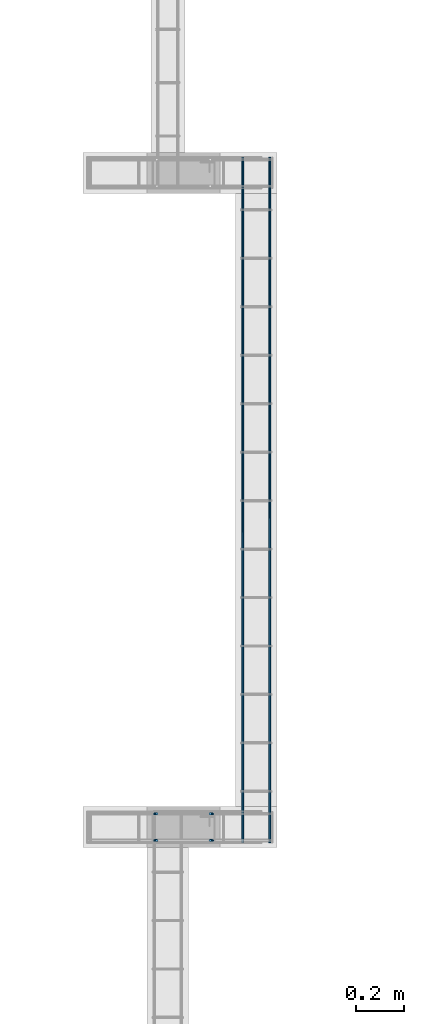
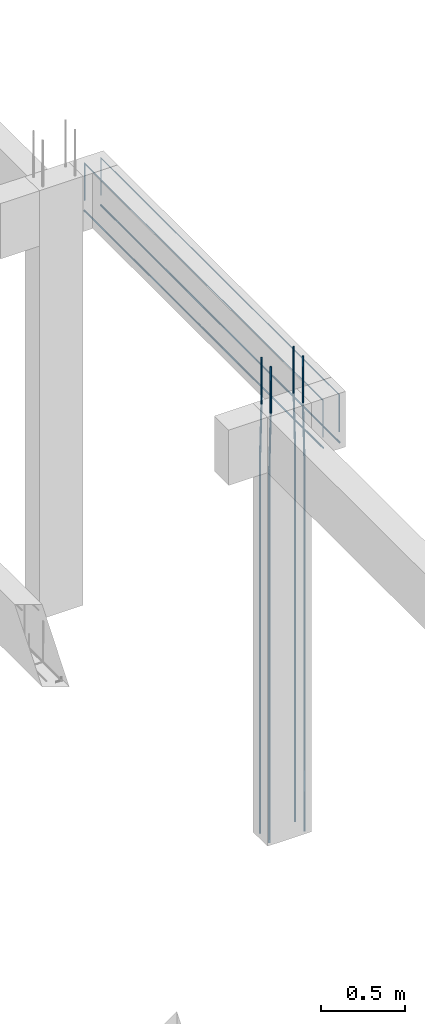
# One storey, part 109 of 236: 8 reinforcing bars.
"""IFC4 building model written with IfcOpenShell, lengths in centimetres."""

from ifc_helpers import new_model, entity, si_unit, derived_unit, frame, origin_with_axes, place, context, project, spatial, element, save


model = new_model("IFC4")

# Units and contexts
model_context = context("Model", 3, precision=1e-05, world=origin_with_axes(), identifier="Body")
ifc_project = project(units=[si_unit("LENGTHUNIT", "METRE", prefix="CENTI"), si_unit("VOLUMEUNIT", "CUBIC_METRE"), si_unit("AREAUNIT", "SQUARE_METRE"), si_unit("POWERUNIT", "WATT"), si_unit("LUMINOUSFLUXUNIT", "LUMEN"), si_unit("ELECTRICCURRENTUNIT", "AMPERE"), si_unit("PRESSUREUNIT", "PASCAL", prefix="KILO"), si_unit("MASSUNIT", "GRAM", prefix="KILO"), si_unit("PLANEANGLEUNIT", "RADIAN"), derived_unit("VOLUMETRICFLOWRATEUNIT", [(si_unit("LENGTHUNIT", "METRE"), 3), (si_unit("TIMEUNIT", "SECOND"), -1)])], contexts=[model_context])

# Site, building, storey
site_placement = place(None, frame((-4000.0, 0.0, 0.0), z_axis=(0.0, 0.0, 1.0), x_axis=(1.0, 0.0, 0.0)))
site = spatial("IfcSite", under=ifc_project, at=site_placement, Name="PADRÃO")
building_placement = place(site_placement, frame((0.0, 0.0, -14.0)))
building = spatial("IfcBuilding", under=site, at=building_placement, Name="CRECHE PRÉ-ESCOLA TIPO 2")
placement_1 = place(building_placement, origin_with_axes())
placement_2 = place(placement_1, frame((0.0, 0.0, 30.0), z_axis=(0.0, 0.0, 1.0), x_axis=(1.0, 0.0, 0.0)))
storey_placement = place(placement_2, frame((0.0, 0.0, 310.0), z_axis=(0.0, 0.0, 1.0), x_axis=(1.0, 0.0, 0.0)))
storey = spatial("IfcBuildingStorey", under=building, at=storey_placement, Name="TERREO", CompositionType="ELEMENT", Elevation=326.0)

# Reinforcing bars
reinforcing_bar_1_placement = place(storey_placement, frame((3361.0, 1024.58, 33.3573001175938), z_axis=(0.0, 0.0, 1.0), x_axis=(1.0, 0.0, 0.0)))
element("IfcReinforcingBar", 1, at=reinforcing_bar_1_placement, inside=storey, Name="P124 - Longitudinal", BarLength=0.0, CrossSectionArea=7.853981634e-05, NominalDiameter=1.0, PredefinedType="MAIN", context=model_context, shape_type="AdvancedSweptSolid", body=[
    entity("IfcSweptDiskSolid", entity("IfcCompositeCurve", [entity("IfcCompositeCurveSegment", "CONTINUOUS", True, entity("IfcPolyline", [entity("IfcCartesianPoint", [-0.5, 0.0, -343.357300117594]), entity("IfcCartesianPoint", [-0.5, 0.0, -73.3573001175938])])), entity("IfcCompositeCurveSegment", "CONTINUOUS", True, entity("IfcPolyline", [entity("IfcCartesianPoint", [-0.5, 0.0, -73.3573001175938]), entity("IfcCartesianPoint", [0.5, 0.0, -33.3573001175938])])), entity("IfcCompositeCurveSegment", "CONTINUOUS", True, entity("IfcPolyline", [entity("IfcCartesianPoint", [0.5, 0.0, -33.3573001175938]), entity("IfcCartesianPoint", [0.5, 0.0, 0.0])]))], False), 0.5),
])
for number, where, z_axis, x_axis, name in (
    (2, (3384.0, 1024.58, 33.3573001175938), (0.0, 0.0, 1.0), (1.0, 0.0, 0.0), "P124 - Longitudinal"),
    (3, (3384.0, 1035.58, 33.3573001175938), (0.0, 0.0, 1.0), (1.0, 0.0, 0.0), "P124 - Longitudinal"),
):
    element("IfcReinforcingBar", number, at=place(storey_placement, frame(where, z_axis=z_axis, x_axis=x_axis)), inside=storey, Name=name, BarLength=0.0, CrossSectionArea=7.853981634e-05, NominalDiameter=1.0, PredefinedType="MAIN", context=model_context, shape_type="AdvancedSweptSolid", body=[
        entity("IfcSweptDiskSolid", entity("IfcCompositeCurve", [entity("IfcCompositeCurveSegment", "CONTINUOUS", True, entity("IfcPolyline", [entity("IfcCartesianPoint", [0.5, 0.0, -343.357300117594]), entity("IfcCartesianPoint", [0.5, 0.0, -73.3573001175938])])), entity("IfcCompositeCurveSegment", "CONTINUOUS", True, entity("IfcPolyline", [entity("IfcCartesianPoint", [0.5, 0.0, -73.3573001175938]), entity("IfcCartesianPoint", [-0.5, 0.0, -33.3573001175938])])), entity("IfcCompositeCurveSegment", "CONTINUOUS", True, entity("IfcPolyline", [entity("IfcCartesianPoint", [-0.5, 0.0, -33.3573001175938]), entity("IfcCartesianPoint", [-0.5, 0.0, 0.0])]))], False), 0.5),
    ])
reinforcing_bar_2_placement = place(storey_placement, frame((3361.0, 1035.58, 33.3573001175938), z_axis=(0.0, 0.0, 1.0), x_axis=(1.0, 0.0, 0.0)))
element("IfcReinforcingBar", 4, at=reinforcing_bar_2_placement, inside=storey, Name="P124 - Longitudinal", BarLength=0.0, CrossSectionArea=7.853981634e-05, NominalDiameter=1.0, PredefinedType="MAIN", context=model_context, shape_type="AdvancedSweptSolid", body=[
    entity("IfcSweptDiskSolid", entity("IfcCompositeCurve", [entity("IfcCompositeCurveSegment", "CONTINUOUS", True, entity("IfcPolyline", [entity("IfcCartesianPoint", [-0.5, 0.0, -343.357300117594]), entity("IfcCartesianPoint", [-0.5, 0.0, -73.3573001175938])])), entity("IfcCompositeCurveSegment", "CONTINUOUS", True, entity("IfcPolyline", [entity("IfcCartesianPoint", [-0.5, 0.0, -73.3573001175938]), entity("IfcCartesianPoint", [0.5, 0.0, -33.3573001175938])])), entity("IfcCompositeCurveSegment", "CONTINUOUS", True, entity("IfcPolyline", [entity("IfcCartesianPoint", [0.5, 0.0, -33.3573001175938]), entity("IfcCartesianPoint", [0.5, 0.0, 0.0])]))], False), 0.5),
])
for number, where, z_axis, x_axis, name in (
    (5, (3408.08, 1165.09, -36.7), (0.0, 0.0, 1.0), (1.0, 0.0, 0.0), "V313 - Longitudinal inferior"),
    (6, (3396.88, 1165.09, -36.7), (0.0, 0.0, 1.0), (1.0, 0.0, 0.0), "V313 - Longitudinal inferior"),
):
    element("IfcReinforcingBar", number, at=place(storey_placement, frame(where, z_axis=z_axis, x_axis=x_axis)), inside=storey, Name=name, BarLength=0.0, CrossSectionArea=5.0265482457e-05, NominalDiameter=0.8, PredefinedType="MAIN", context=model_context, shape_type="AdvancedSweptSolid", body=[
        entity("IfcSweptDiskSolid", entity("IfcCompositeCurve", [entity("IfcCompositeCurveSegment", "CONTINUOUS", True, entity("IfcPolyline", [entity("IfcCartesianPoint", [0.0, -141.5, -0.4]), entity("IfcCartesianPoint", [0.0, 141.5, -0.4])]))], False), 0.4),
    ])
for number, where, z_axis, x_axis, name in (
    (7, (3396.88, 1165.09, -2.49624973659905), (0.0, 0.0, 1.0), (1.0, 0.0, 0.0), "V313 - Longitudinal superior"),
    (8, (3408.08, 1165.09, -2.49624973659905), (0.0, 0.0, 1.0), (1.0, 0.0, 0.0), "V313 - Longitudinal superior"),
):
    element("IfcReinforcingBar", number, at=place(storey_placement, frame(where, z_axis=z_axis, x_axis=x_axis)), inside=storey, Name=name, BarLength=0.0, CrossSectionArea=5.0265482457e-05, NominalDiameter=0.8, PredefinedType="MAIN", context=model_context, shape_type="AdvancedSweptSolid", body=[
        entity("IfcSweptDiskSolid", entity("IfcCompositeCurve", [entity("IfcCompositeCurveSegment", "CONTINUOUS", True, entity("IfcPolyline", [entity("IfcCartesianPoint", [0.0, -141.1, -27.089590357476]), entity("IfcCartesianPoint", [0.0, -141.1, -0.403750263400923])])), entity("IfcCompositeCurveSegment", "CONTINUOUS", True, entity("IfcPolyline", [entity("IfcCartesianPoint", [0.0, -141.1, -0.403750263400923]), entity("IfcCartesianPoint", [0.0, 141.1, -0.403750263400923])])), entity("IfcCompositeCurveSegment", "CONTINUOUS", True, entity("IfcPolyline", [entity("IfcCartesianPoint", [0.0, 141.1, -0.403750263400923]), entity("IfcCartesianPoint", [0.0, 141.1, -27.089590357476])]))], False), 0.4),
    ])

save(model, "model.ifc")
